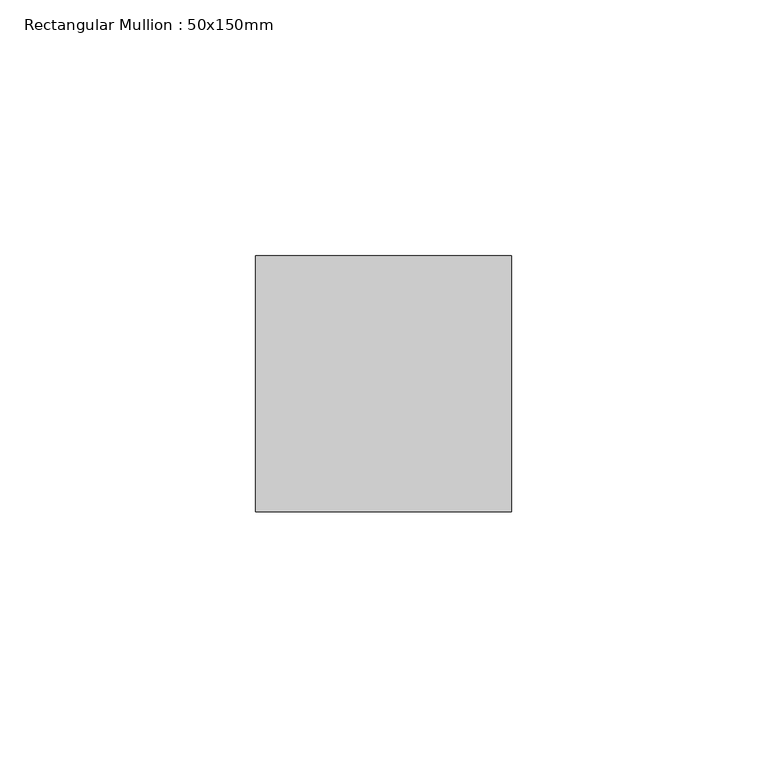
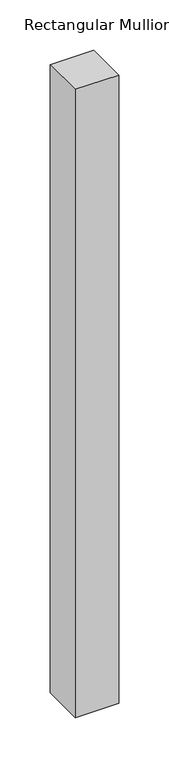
"""IFC4 building model written with IfcOpenShell, lengths in millimetres: member geometry, Rectangular Mullion : 50x150mm."""

from ifc_helpers import new_model, si_unit, frame, origin, place, context, project, spatial, polyline, outline, extrude, source, transform, mapped, element, save


def rectangular_mullion_50x150mm_10119c83(model_context):
    return source(origin(), model_context, "Body", "SweptSolid", [
        extrude(outline(polyline([(0.0, 25.0), (0.0, -25.0), (-50.0, -25.0), (-50.0, 25.0), (0.0, 25.0)])), frame((0.0, 0.0, -765.0), z_axis=(0.0, 0.0, 1.0), x_axis=(1.0, 0.0, 0.0)), (0.0, 0.0, 1.0), 765.0),
    ])


if __name__ == "__main__":
    model = new_model("IFC4")
    model_context = context("Model", 3, world=origin())
    ifc_project = project(units=[si_unit("LENGTHUNIT", "METRE", prefix="MILLI")], contexts=[model_context])
    site = spatial("IfcSite", under=ifc_project)
    building = spatial("IfcBuilding", under=site)
    placement = place(None, origin())
    rectangular_mullion_50x150mm_shape = rectangular_mullion_50x150mm_10119c83(model_context)
    element("IfcMember", 1, ObjectType="Rectangular Mullion : 50x150mm", at=placement, inside=building, context=model_context, shape_type="MappedRepresentation", body=[
        mapped(rectangular_mullion_50x150mm_shape, transform((0.0, 0.0, 0.0), x_axis=(1.0, 0.0, 0.0), y_axis=(0.0, 1.0, 0.0), z_axis=(0.0, 0.0, 1.0))),
    ])
    save(model, "model.ifc")
